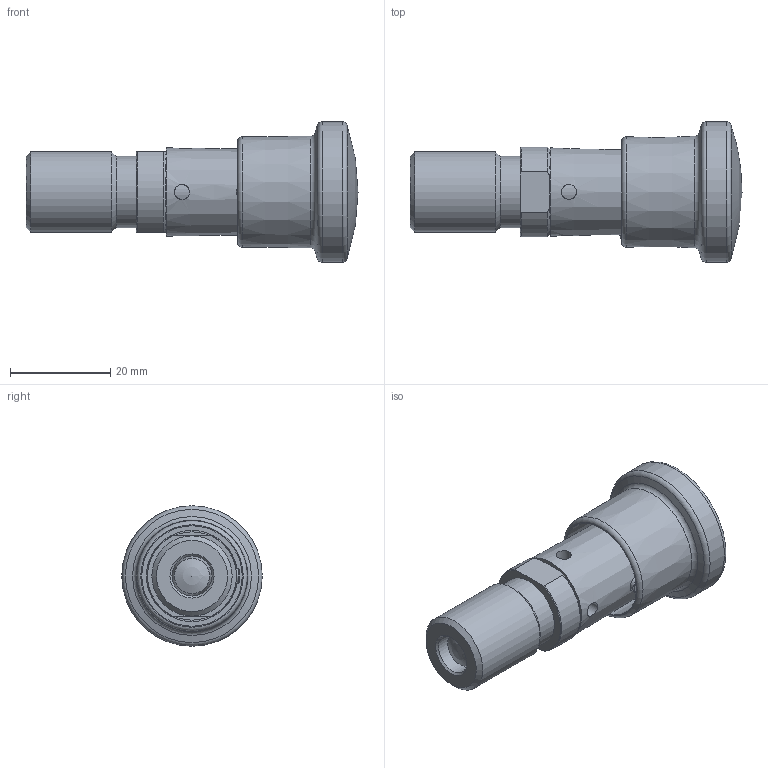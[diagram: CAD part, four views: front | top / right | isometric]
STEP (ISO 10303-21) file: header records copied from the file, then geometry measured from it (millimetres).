
FILE_DESCRIPTION( ( 'STEP AP203' ), '1' );
FILE_NAME( 'C:/Temp/Ganter_Step_05_03_2020/data/3_1/gn816_1/gn_816_1_ar/Locking plunger GN 816.1-8-M16x1,5-AR (deactivated).stp', '2020-03-12T08:56:13', ( 'License CC BY-ND 4.0' ), ( 'CADENAS' ), ' ', 'PARTsolutions', ' ' );
FILE_SCHEMA( ( 'CONFIG_CONTROL_DESIGN' ) );
Length unit declared in the file: millimetre
Products named in the file (3): Locking plunger GN 816.1-8-M16x1,5-AR (deactivated); _GN 816.1-8-M16x1,5-AR (deactivated)-2; _GN 816.1-8-M16x1,5-AR (deactivated)-1
Assembly tree (2 placements, depth 2):
  Locking plunger GN 816.1-8-M16x1,5-AR (deactivated)
    _GN 816.1-8-M16x1,5-AR (deactivated)-2
    _GN 816.1-8-M16x1,5-AR (deactivated)-1
Bounding box: 66.2 x 28 x 28 mm (x, y, z)
Volume: 14261.7 mm3; surface area: 10453.4 mm2
Topology: 2 solids, 2 shells, 55 faces, 116 edges, 73 vertices
Faces by surface type: cone 17, cylinder 16, plane 14, torus 6, sphere 2
Full cylindrical faces by diameter (mm): 2.9 x1, 3 x3, 8 x2, 11 x1, 11.1 x1, 14.2 x2, 16 x1, 18.2 x1, 20.017 x1, 28 x1
Entity records: 1700 total; most frequent: CARTESIAN_POINT 575, DIRECTION 222, ORIENTED_EDGE 144, AXIS2_PLACEMENT_3D 107, EDGE_LOOP 106, FACE_OUTER_BOUND 75, EDGE_CURVE 72, VERTEX_POINT 66
